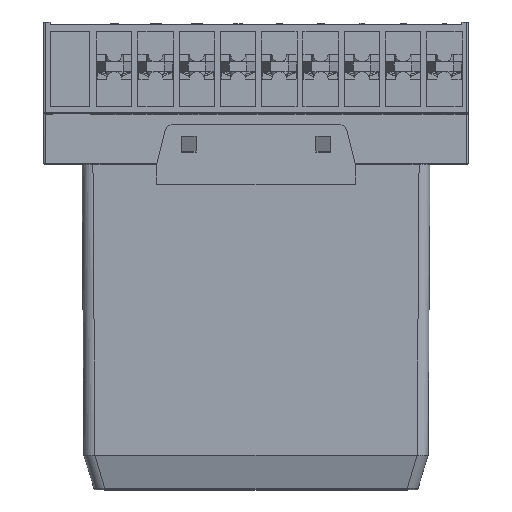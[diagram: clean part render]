
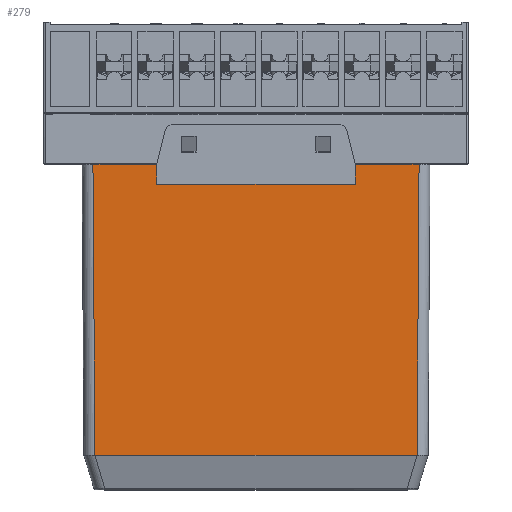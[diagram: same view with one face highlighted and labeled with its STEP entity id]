
A CAD part, top view. The second image highlights one B-rep face of the part: STEP entity #279.
In plain terms, the highlighted planar face has unit normal (0, -0.014, 1).
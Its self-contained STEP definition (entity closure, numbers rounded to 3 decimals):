
#279=ADVANCED_FACE('',(#61217),#61219,.T.);
#61217=FACE_BOUND('',#61218,.T.);
#61218=EDGE_LOOP('',(#119421,#119422,#119423,#119424,#119425,#119426,#119427,#119428));
#61219=PLANE('',#61220);
#61220=AXIS2_PLACEMENT_3D('',#61221,#61222,#61223);
#61221=CARTESIAN_POINT('',(-64.9,-58.63,18.799));
#61222=DIRECTION('',(0.,-0.014,1.));
#61223=DIRECTION('',(1.,0.,0.));
#119421=ORIENTED_EDGE('',*,*,#159282,.F.);
#119422=ORIENTED_EDGE('',*,*,#159297,.T.);
#119423=ORIENTED_EDGE('',*,*,#159298,.F.);
#119424=ORIENTED_EDGE('',*,*,#159299,.F.);
#119425=ORIENTED_EDGE('',*,*,#159300,.F.);
#119426=ORIENTED_EDGE('',*,*,#159301,.F.);
#119427=ORIENTED_EDGE('',*,*,#159302,.F.);
#119428=ORIENTED_EDGE('',*,*,#159303,.F.);
#159282=EDGE_CURVE('',#178764,#178767,#178768,.T.);
#159297=EDGE_CURVE('',#178764,#178788,#178790,.T.);
#159298=EDGE_CURVE('',#178791,#178788,#178792,.T.);
#159299=EDGE_CURVE('',#178793,#178791,#178794,.T.);
#159300=EDGE_CURVE('',#178795,#178793,#178796,.T.);
#159301=EDGE_CURVE('',#178797,#178795,#178798,.T.);
#159302=EDGE_CURVE('',#178799,#178797,#178800,.T.);
#159303=EDGE_CURVE('',#178767,#178799,#178801,.T.);
#178764=VERTEX_POINT('',#211468);
#178767=VERTEX_POINT('',#211490);
#178768=LINE('',#211491,#211492);
#178788=VERTEX_POINT('',#211584);
#178790=LINE('',#211616,#211617);
#178791=VERTEX_POINT('',#211619);
#178792=LINE('',#211620,#211621);
#178793=VERTEX_POINT('',#211623);
#178794=LINE('',#211624,#211625);
#178795=VERTEX_POINT('',#211627);
#178796=LINE('',#211628,#211629);
#178797=VERTEX_POINT('',#211631);
#178798=LINE('',#211632,#211633);
#178799=VERTEX_POINT('',#211635);
#178800=LINE('',#211636,#211637);
#178801=LINE('',#211639,#211640);
#211468=CARTESIAN_POINT('',(-0.1,-58.63,18.799));
#211490=CARTESIAN_POINT('',(-64.9,-58.63,18.799));
#211491=CARTESIAN_POINT('',(-0.1,-58.63,18.799));
#211492=VECTOR('',#211493,1.);
#211493=DIRECTION('',(-1.,0.,0.));
#211584=CARTESIAN_POINT('',(0.3,-0.134,19.599));
#211616=CARTESIAN_POINT('',(-0.1,-58.63,18.799));
#211617=VECTOR('',#211618,1.);
#211618=DIRECTION('',(0.007,1.,0.014));
#211619=CARTESIAN_POINT('',(-12.5,-0.134,19.599));
#211620=CARTESIAN_POINT('',(-12.5,-0.134,19.599));
#211621=VECTOR('',#211622,1.);
#211622=DIRECTION('',(1.,0.,0.));
#211623=CARTESIAN_POINT('',(-12.5,-4.134,19.544));
#211624=CARTESIAN_POINT('',(-12.5,-4.134,19.544));
#211625=VECTOR('',#211626,1.);
#211626=DIRECTION('',(0.,1.,0.014));
#211627=CARTESIAN_POINT('',(-52.5,-4.134,19.544));
#211628=CARTESIAN_POINT('',(-52.5,-4.134,19.544));
#211629=VECTOR('',#211630,1.);
#211630=DIRECTION('',(1.,0.,0.));
#211631=CARTESIAN_POINT('',(-52.5,-0.134,19.599));
#211632=CARTESIAN_POINT('',(-52.5,-0.134,19.599));
#211633=VECTOR('',#211634,1.);
#211634=DIRECTION('',(0.,-1.,-0.014));
#211635=CARTESIAN_POINT('',(-65.3,-0.134,19.599));
#211636=CARTESIAN_POINT('',(-65.3,-0.134,19.599));
#211637=VECTOR('',#211638,1.);
#211638=DIRECTION('',(1.,0.,0.));
#211639=CARTESIAN_POINT('',(-64.9,-58.63,18.799));
#211640=VECTOR('',#211641,1.);
#211641=DIRECTION('',(-0.007,1.,0.014));
